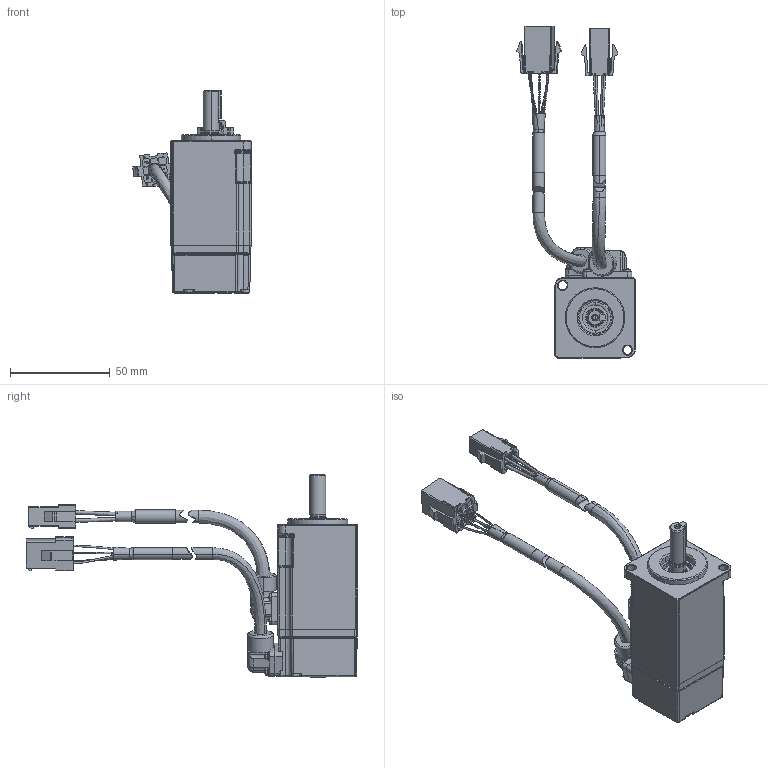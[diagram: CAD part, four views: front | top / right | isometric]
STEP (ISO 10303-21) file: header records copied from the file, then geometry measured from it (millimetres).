
FILE_DESCRIPTION (( 'STEP AP214' ), '1' );
FILE_NAME ('4030402-□□□□_交流永磁同步伺服电动机_DM1M-01A40[]81_A1.STEP', '2020-11-17T02:28:27', ( '' ), ( '' ), 'SwSTEP 2.0', 'SolidWorks 2018', '' );
FILE_SCHEMA (( 'AUTOMOTIVE_DESIGN' ));
Length unit declared in the file: millimetre
Products named in the file (1): 4030402-□□□□_交流永磁同步伺服电动机_DM1M-01A40[]81_A1
Bounding box: 59.49 x 166.65 x 101.6 mm (x, y, z)
Surface area: 30427.4 mm2 (no closed solid volume)
Topology: 0 solids, 56 shells, 1072 faces, 3686 edges, 2589 vertices
Faces by surface type: plane 508, cylinder 335, bspline 94, cone 56, torus 44, sphere 35
Entity records: 54853 total; most frequent: CARTESIAN_POINT 12357, DIRECTION 6292, ORIENTED_EDGE 5906, EDGE_CURVE 3679, VERTEX_POINT 2589, VECTOR 2154, LINE 2154, AXIS2_PLACEMENT_3D 2069
